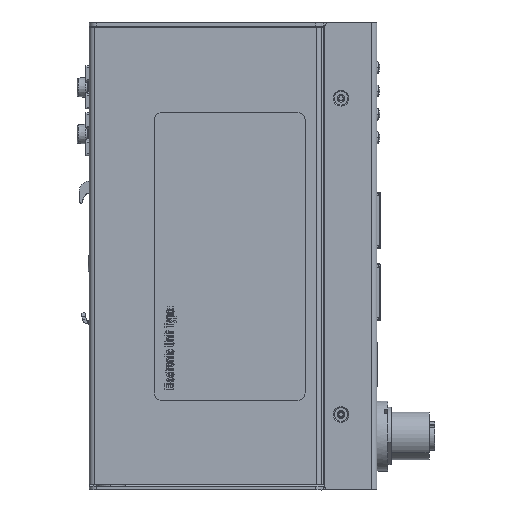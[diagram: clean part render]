
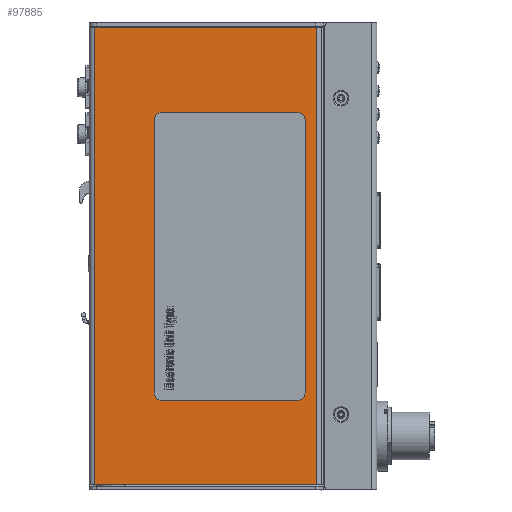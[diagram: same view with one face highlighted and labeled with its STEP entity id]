
A CAD part, front view. The second image highlights one B-rep face of the part: STEP entity #97885.
In plain terms, the highlighted planar face has unit normal (0, -1, 0).
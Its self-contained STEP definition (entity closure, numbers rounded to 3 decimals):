
#13796=DIRECTION('',(0.,0.,1.));
#13797=VECTOR('',#13796,127.2);
#13798=CARTESIAN_POINT('',(-48.211,0.,136.4));
#13799=LINE('',#13798,#13797);
#13800=DIRECTION('',(-1.,0.,0.));
#13801=VECTOR('',#13800,61.789);
#13802=CARTESIAN_POINT('',(-48.211,0.,136.4));
#13803=LINE('',#13802,#13801);
#13804=DIRECTION('',(1.,0.,0.));
#13805=VECTOR('',#13804,61.789);
#13806=CARTESIAN_POINT('',(-110.,0.,263.6));
#13807=LINE('',#13806,#13805);
#13808=DIRECTION('',(0.,0.,1.));
#13809=VECTOR('',#13808,76.);
#13810=CARTESIAN_POINT('',(-51.5,0.,162.));
#13811=LINE('',#13810,#13809);
#13812=CARTESIAN_POINT('',(-53.5,0.,238.));
#13813=DIRECTION('',(0.,1.,0.));
#13814=DIRECTION('',(0.,0.,1.));
#13815=AXIS2_PLACEMENT_3D('',#13812,#13813,#13814);
#13817=DIRECTION('',(-1.,0.,0.));
#13818=VECTOR('',#13817,38.);
#13819=CARTESIAN_POINT('',(-53.5,0.,240.));
#13820=LINE('',#13819,#13818);
#13821=CARTESIAN_POINT('',(-91.5,0.,238.));
#13822=DIRECTION('',(0.,1.,0.));
#13823=DIRECTION('',(-1.,0.,0.));
#13824=AXIS2_PLACEMENT_3D('',#13821,#13822,#13823);
#13826=DIRECTION('',(0.,0.,-1.));
#13827=VECTOR('',#13826,76.);
#13828=CARTESIAN_POINT('',(-93.5,0.,238.));
#13829=LINE('',#13828,#13827);
#13830=CARTESIAN_POINT('',(-91.5,0.,162.));
#13831=DIRECTION('',(0.,1.,0.));
#13832=DIRECTION('',(0.,0.,-1.));
#13833=AXIS2_PLACEMENT_3D('',#13830,#13831,#13832);
#13835=DIRECTION('',(1.,0.,0.));
#13836=VECTOR('',#13835,38.);
#13837=CARTESIAN_POINT('',(-91.5,0.,160.));
#13838=LINE('',#13837,#13836);
#13839=CARTESIAN_POINT('',(-53.5,0.,162.));
#13840=DIRECTION('',(0.,1.,0.));
#13841=DIRECTION('',(1.,0.,0.));
#13842=AXIS2_PLACEMENT_3D('',#13839,#13840,#13841);
#14961=DIRECTION('',(0.,0.,1.));
#14962=VECTOR('',#14961,127.2);
#14963=CARTESIAN_POINT('',(-110.,0.,136.4));
#14964=LINE('',#14963,#14962);
#65367=CARTESIAN_POINT('',(-110.,0.,263.6));
#65368=VERTEX_POINT('',#65367);
#65369=CARTESIAN_POINT('',(-110.,0.,136.4));
#65370=VERTEX_POINT('',#65369);
#65491=CARTESIAN_POINT('',(-48.211,0.,263.6));
#65493=VERTEX_POINT('',#65491);
#65501=CARTESIAN_POINT('',(-48.211,0.,136.4));
#65502=VERTEX_POINT('',#65501);
#80405=CARTESIAN_POINT('',(-51.5,0.,162.));
#80406=CARTESIAN_POINT('',(-51.5,0.,238.));
#80407=VERTEX_POINT('',#80405);
#80408=VERTEX_POINT('',#80406);
#80409=CARTESIAN_POINT('',(-53.5,0.,240.));
#80410=CARTESIAN_POINT('',(-91.5,0.,240.));
#80411=VERTEX_POINT('',#80409);
#80412=VERTEX_POINT('',#80410);
#80413=CARTESIAN_POINT('',(-93.5,0.,238.));
#80414=CARTESIAN_POINT('',(-93.5,0.,162.));
#80415=VERTEX_POINT('',#80413);
#80416=VERTEX_POINT('',#80414);
#80417=CARTESIAN_POINT('',(-91.5,0.,160.));
#80418=CARTESIAN_POINT('',(-53.5,0.,160.));
#80419=VERTEX_POINT('',#80417);
#80420=VERTEX_POINT('',#80418);
#97854=CARTESIAN_POINT('',(-111.5,0.,200.));
#97855=DIRECTION('',(0.,1.,0.));
#97856=DIRECTION('',(0.,0.,-1.));
#97857=AXIS2_PLACEMENT_3D('',#97854,#97855,#97856);
#97858=PLANE('',#97857);
#97859=ORIENTED_EDGE('',*,*,#97828,.F.);
#97861=ORIENTED_EDGE('',*,*,#97860,.T.);
#97863=ORIENTED_EDGE('',*,*,#97862,.T.);
#97864=ORIENTED_EDGE('',*,*,#97839,.T.);
#97865=EDGE_LOOP('',(#97859,#97861,#97863,#97864));
#97866=FACE_OUTER_BOUND('',#97865,.F.);
#97868=ORIENTED_EDGE('',*,*,#97867,.T.);
#97870=ORIENTED_EDGE('',*,*,#97869,.F.);
#97872=ORIENTED_EDGE('',*,*,#97871,.T.);
#97874=ORIENTED_EDGE('',*,*,#97873,.F.);
#97876=ORIENTED_EDGE('',*,*,#97875,.T.);
#97878=ORIENTED_EDGE('',*,*,#97877,.F.);
#97880=ORIENTED_EDGE('',*,*,#97879,.T.);
#97882=ORIENTED_EDGE('',*,*,#97881,.F.);
#97883=EDGE_LOOP('',(#97868,#97870,#97872,#97874,#97876,#97878,#97880,#97882));
#97884=FACE_BOUND('',#97883,.F.);
#97885=ADVANCED_FACE('',(#97866,#97884),#97858,.F.);
#13816=CIRCLE('',#13815,2.);
#13825=CIRCLE('',#13824,2.);
#13834=CIRCLE('',#13833,2.);
#13843=CIRCLE('',#13842,2.);
#97828=EDGE_CURVE('',#65502,#65493,#13799,.T.);
#97839=EDGE_CURVE('',#65368,#65493,#13807,.T.);
#97860=EDGE_CURVE('',#65502,#65370,#13803,.T.);
#97862=EDGE_CURVE('',#65370,#65368,#14964,.T.);
#97867=EDGE_CURVE('',#80407,#80408,#13811,.T.);
#97869=EDGE_CURVE('',#80411,#80408,#13816,.T.);
#97871=EDGE_CURVE('',#80411,#80412,#13820,.T.);
#97873=EDGE_CURVE('',#80415,#80412,#13825,.T.);
#97875=EDGE_CURVE('',#80415,#80416,#13829,.T.);
#97877=EDGE_CURVE('',#80419,#80416,#13834,.T.);
#97879=EDGE_CURVE('',#80419,#80420,#13838,.T.);
#97881=EDGE_CURVE('',#80407,#80420,#13843,.T.);
